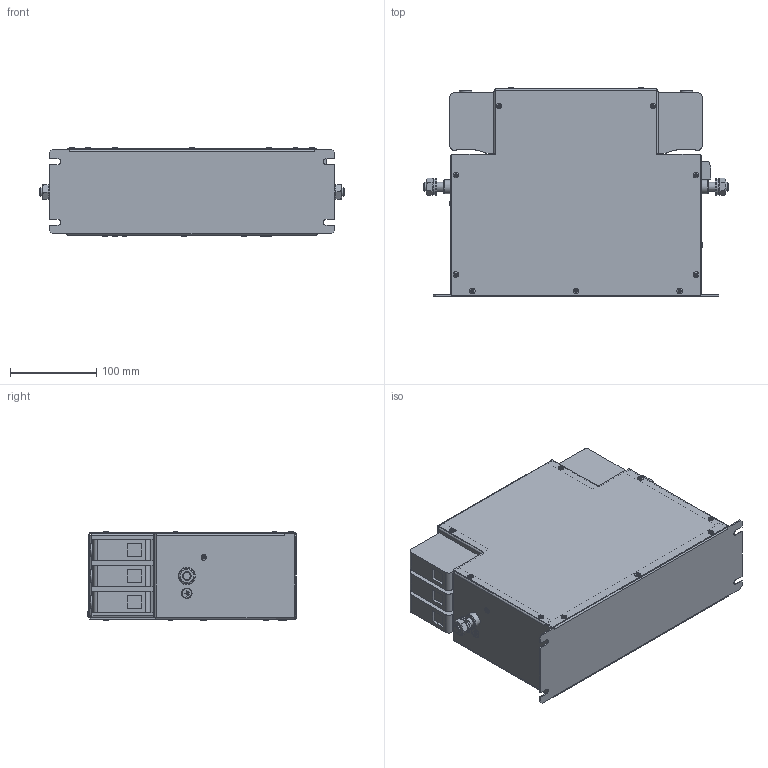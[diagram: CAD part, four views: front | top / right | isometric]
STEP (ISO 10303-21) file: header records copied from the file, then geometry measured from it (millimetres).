
FILE_DESCRIPTION(/* description */ ('raw material description'),/* implementation_level */ '2;1');
FILE_NAME(/* name */ 'C:\Users\Orhan.Eker\Desktop\FN3840-160-40.stp',/* time_stamp */ '2020-02-24T13:28:42+01:00',/* author */ ('orhan.eker'),/* organization */ ('Schaffner EMV AG'),/* preprocessor_version */ 'ST-DEVELOPER v16.5',/* originating_system */ 'Autodesk Inventor 2017',/* authorisation */ '');
FILE_SCHEMA (('AUTOMOTIVE_DESIGN { 1 0 10303 214 3 1 1 }'));
Length unit declared in the file: millimetre
Products named in the file (1): Part2
Bounding box: 352.64 x 241.4 x 102.8 mm (x, y, z)
Volume: 835766.4 mm3; surface area: 533597.2 mm2
Topology: 1 solids, 3 shells, 1196 faces, 2751 edges, 1737 vertices
Faces by surface type: plane 683, cylinder 325, cone 120, bspline 46, torus 22
Full cylindrical faces by diameter (mm): 2 x22, 3 x6, 3.2 x22, 3.3 x13, 3.4 x22, 3.5 x22, 4 x2, 4.82 x4, 5 x4, 5.2 x22, 5.3 x4, 5.4 x4, 6.5 x22, 7 x4, 7.3 x2, 9.188 x2, 9.9 x2, 10 x4, 10.5 x2, 11 x2, 12 x2, 12.7 x2, 14.5 x6, 15.4 x2, 16.5 x2, 20 x2
Entity records: 33999 total; most frequent: CARTESIAN_POINT 7003, DIRECTION 5324, ORIENTED_EDGE 4886, EDGE_CURVE 2435, AXIS2_PLACEMENT_3D 1984, VERTEX_POINT 1706, EDGE_LOOP 1705, LINE 1356
